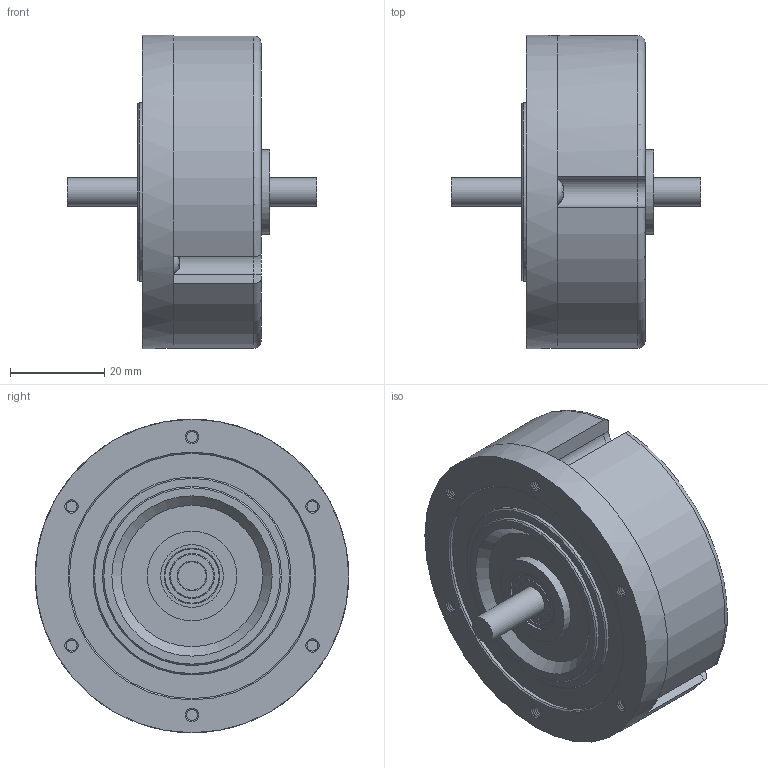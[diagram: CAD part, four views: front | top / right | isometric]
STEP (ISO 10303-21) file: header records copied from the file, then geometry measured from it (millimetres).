
FILE_DESCRIPTION((''),'1');
FILE_NAME('//Ha8000fs/isc/生産本部/ユニット部/図庫/国内ﾕﾆｯﾄ/ｴﾝﾙｰﾄ(ｲｰﾑｽﾞﾗﾎﾞ・ｱﾄﾗｯｸﾗﾎﾞ)/ﾄﾗｸｼｮﾝﾄﾞﾗｲﾌﾞ/ホームページ', '2021-04-19T04:21:45',(''), (''), 'KCM Version 1.1.1442.0', 'Kubotek KeyCreator', '');
FILE_SCHEMA(('AUTOMOTIVE_DESIGN'));
Length unit declared in the file: millimetre
Bounding box: 53 x 66.5 x 66.5 mm (x, y, z)
Surface area: 15150.9 mm2 (no closed solid volume)
Topology: 0 solids, 334 shells, 334 faces, 1412 edges, 1208 vertices
Faces by surface type: cone 175, plane 82, cylinder 70, bspline 4, torus 3
Full cylindrical faces by diameter (mm): 3 x3, 3.5 x9, 5.7 x3, 6 x2, 13.3 x1, 14 x1, 18 x1, 19 x1, 38 x1, 42 x1, 52 x1, 66.5 x1
Entity records: 16065 total; most frequent: CARTESIAN_POINT 4145, DIRECTION 2681, ORIENTED_EDGE 1616, EDGE_CURVE 1412, VERTEX_POINT 1203, AXIS2_PLACEMENT_3D 1098, CIRCLE 692, VECTOR 485
